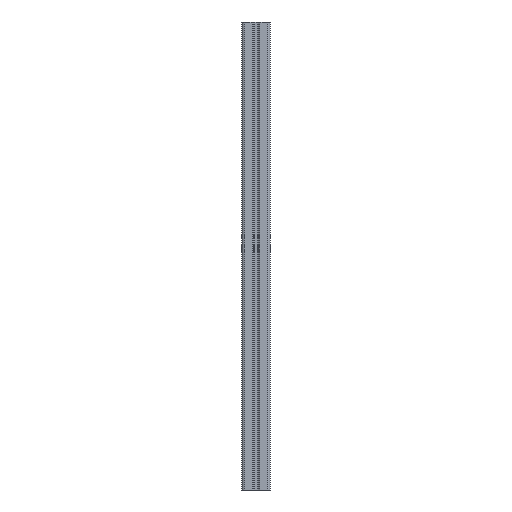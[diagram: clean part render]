
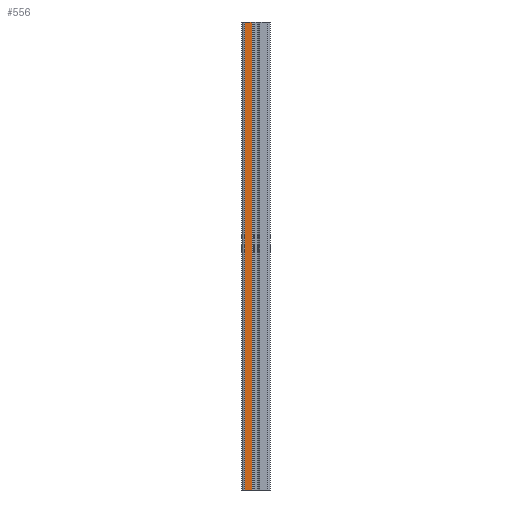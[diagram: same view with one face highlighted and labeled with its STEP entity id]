
A CAD part, left-side view. The second image highlights one B-rep face of the part: STEP entity #556.
In plain terms, the highlighted planar face has unit normal (-1, 0, 0).
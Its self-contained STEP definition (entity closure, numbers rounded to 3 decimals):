
#145 = VERTEX_POINT ( 'NONE', #1137 ) ;
#156 = VERTEX_POINT ( 'NONE', #1473 ) ;
#214 = EDGE_CURVE ( 'NONE', #156, #145, #1275, .T. ) ;
#399 = VERTEX_POINT ( 'NONE', #1526 ) ;
#400 = VERTEX_POINT ( 'NONE', #1711 ) ;
#509 = EDGE_CURVE ( 'NONE', #399, #400, #1776, .T. ) ;
#544 = ORIENTED_EDGE ( 'NONE', *, *, #661, .T. ) ;
#545 = ORIENTED_EDGE ( 'NONE', *, *, #214, .F. ) ;
#556 = ADVANCED_FACE ( 'NONE', ( #1963 ), #2143, .F. ) ;
#559 = ORIENTED_EDGE ( 'NONE', *, *, #729, .F. ) ;
#593 = EDGE_LOOP ( 'NONE', ( #604, #559, #545, #544 ) ) ;
#604 = ORIENTED_EDGE ( 'NONE', *, *, #509, .T. ) ;
#661 = EDGE_CURVE ( 'NONE', #156, #399, #2071, .T. ) ;
#729 = EDGE_CURVE ( 'NONE', #145, #400, #2203, .T. ) ;
#1137 = CARTESIAN_POINT ( 'NONE',  ( -14087.101, -11701.107, 500. ) ) ;
#1273 = DIRECTION ( 'NONE',  ( 0., -1., 0. ) ) ;
#1274 = VECTOR ( 'NONE', #1273, 1000. ) ;
#1275 = LINE ( 'NONE', #1322, #1274 ) ;
#1322 = CARTESIAN_POINT ( 'NONE',  ( -14087.101, -11693.282, 500. ) ) ;
#1473 = CARTESIAN_POINT ( 'NONE',  ( -14087.101, -11693.282, 500. ) ) ;
#1526 = CARTESIAN_POINT ( 'NONE',  ( -14087.101, -11693.282, 0. ) ) ;
#1711 = CARTESIAN_POINT ( 'NONE',  ( -14087.101, -11701.107, 0. ) ) ;
#1773 = DIRECTION ( 'NONE',  ( 0., -1., 0. ) ) ;
#1774 = VECTOR ( 'NONE', #1773, 1000. ) ;
#1775 = CARTESIAN_POINT ( 'NONE',  ( -14087.101, -11693.282, 0. ) ) ;
#1776 = LINE ( 'NONE', #1775, #1774 ) ;
#1963 = FACE_OUTER_BOUND ( 'NONE', #593, .T. ) ;
#1965 = DIRECTION ( 'NONE',  ( 1., 0., 0. ) ) ;
#1966 = CARTESIAN_POINT ( 'NONE',  ( -14087.101, -11693.282, 500. ) ) ;
#2014 = DIRECTION ( 'NONE',  ( 0., 0., -1. ) ) ;
#2015 = VECTOR ( 'NONE', #2014, 1000. ) ;
#2016 = CARTESIAN_POINT ( 'NONE',  ( -14087.101, -11693.282, 500. ) ) ;
#2071 = LINE ( 'NONE', #2016, #2015 ) ;
#2098 = AXIS2_PLACEMENT_3D ( 'NONE', #1966, #1965, #2105 ) ;
#2105 = DIRECTION ( 'NONE',  ( 0., 0., -1. ) ) ;
#2143 = PLANE ( 'NONE',  #2098 ) ;
#2198 = DIRECTION ( 'NONE',  ( 0., 0., -1. ) ) ;
#2199 = VECTOR ( 'NONE', #2198, 1000. ) ;
#2200 = CARTESIAN_POINT ( 'NONE',  ( -14087.101, -11701.107, 500. ) ) ;
#2203 = LINE ( 'NONE', #2200, #2199 ) ;
